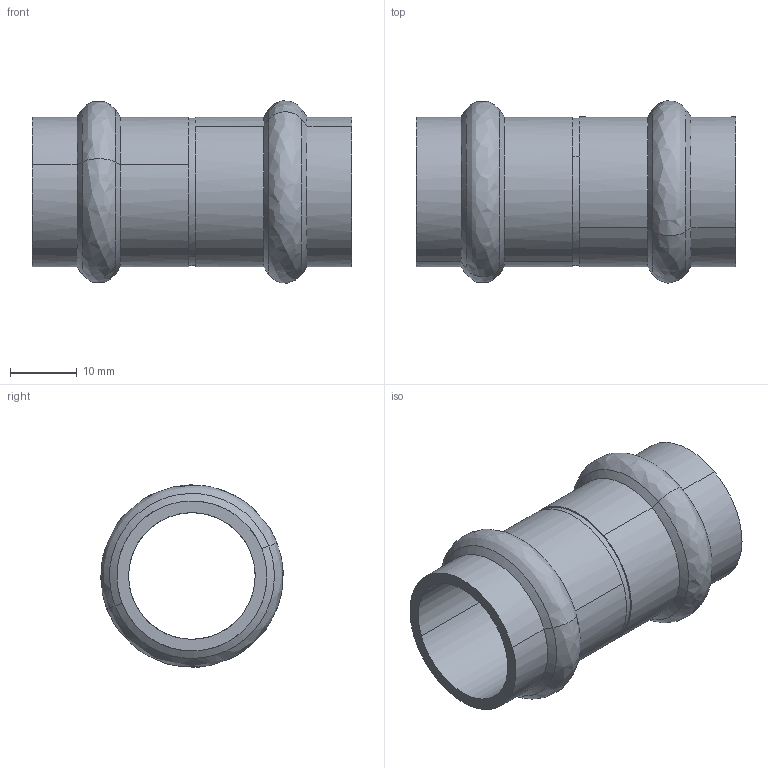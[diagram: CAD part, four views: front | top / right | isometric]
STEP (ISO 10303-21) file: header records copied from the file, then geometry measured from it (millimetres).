
FILE_DESCRIPTION(('STEP AP214'),'1');
FILE_NAME('pim0004414.stp','2015-04-30T04:50:58',('Cad-Pim'),('TransMagic, Inc.'),'TMR11sp0','TransMagic R11',' ');
FILE_SCHEMA(('AUTOMOTIVE_DESIGN'));
Length unit declared in the file: millimetre
Products named in the file (1): pim0004414
Bounding box: 48 x 27.38 x 27.37 mm (x, y, z)
Volume: 7161.6 mm3; surface area: 6994.7 mm2
Topology: 1 solids, 1 shells, 34 faces, 88 edges, 60 vertices
Faces by surface type: cylinder 16, bspline 10, cone 8
Entity records: 1660 total; most frequent: CARTESIAN_POINT 697, ORIENTED_EDGE 176, DIRECTION 98, EDGE_CURVE 88, VERTEX_POINT 60, EDGE_LOOP 40, AXIS2_PLACEMENT_3D 37, STYLED_ITEM 35
